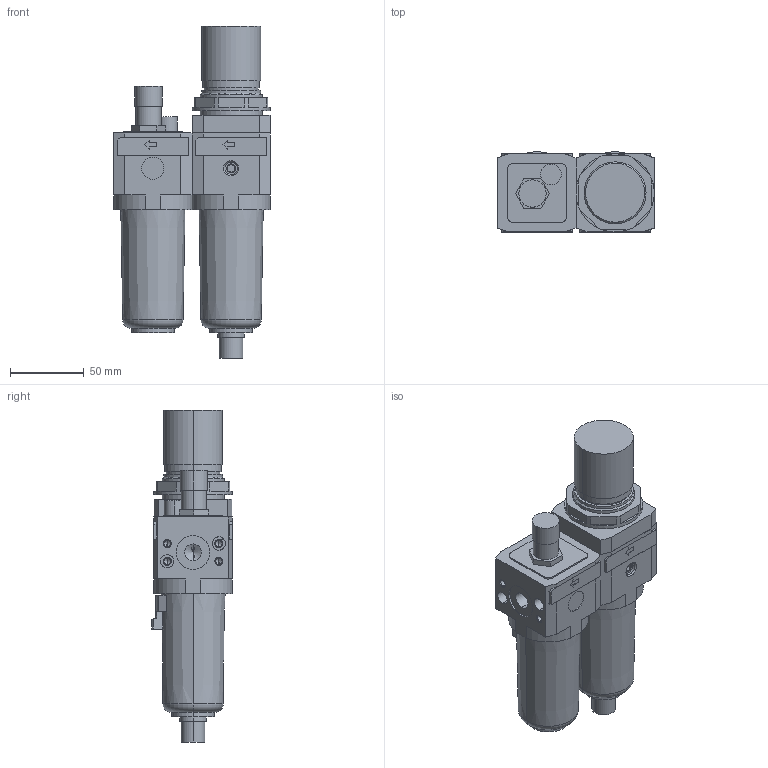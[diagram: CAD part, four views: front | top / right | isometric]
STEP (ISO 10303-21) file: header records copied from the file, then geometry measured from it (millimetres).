
FILE_DESCRIPTION((''),'2;1');
FILE_NAME('I:\DOC-EDP\Lib-3d\FRL\17206A_.stp','2003-06-16T14:55:15',('maffial1'),(''),'Autodesk Inventor 7','Autodesk Inventor 7','');
FILE_SCHEMA(('AUTOMOTIVE_DESIGN { 1 0 10303 214 1 1 1 1 }'));
Length unit declared in the file: millimetre
Products named in the file (6): 17206A_; 17204A_; 17204A_(1); RS_1702_12; RK_1701_020; 17203A
Assembly tree (5 placements, depth 3):
  17206A_
    17204A_
      17204A_(1)
      RS_1702_12
      RK_1701_020
    17203A
Bounding box: 106 x 54.39 x 225 mm (x, y, z)
Volume: 621266.5 mm3; surface area: 90648.7 mm2
Topology: 4 solids, 8 shells, 429 faces, 1051 edges, 655 vertices
Faces by surface type: plane 164, bspline 153, cylinder 76, cone 28, torus 8
Entity records: 13791 total; most frequent: CARTESIAN_POINT 3993, ORIENTED_EDGE 2030, DIRECTION 1916, EDGE_CURVE 1015, VECTOR 664, LINE 664, VERTEX_POINT 655, AXIS2_PLACEMENT_3D 626
